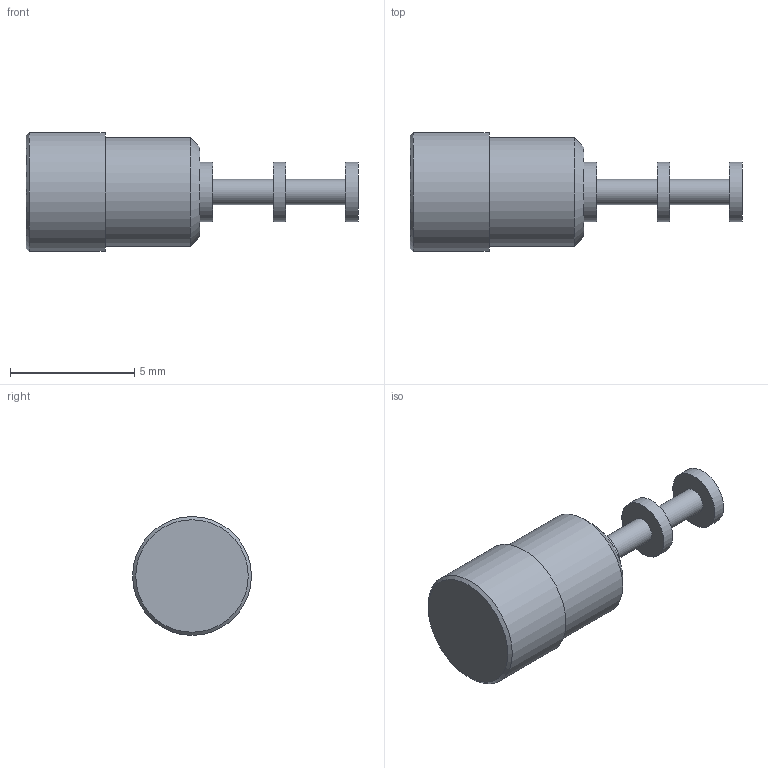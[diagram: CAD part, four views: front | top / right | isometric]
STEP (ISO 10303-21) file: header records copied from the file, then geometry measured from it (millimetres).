
FILE_DESCRIPTION(/* description */ (''),/* implementation_level */ '2;1');
FILE_NAME(/* name */ '\\Snap1\dwgs\Customer 3D Models\571\571-4105-01 Customer model.stp',/* time_stamp */ '2017-01-05T14:44:53+00:00',/* author */ ('paulk'),/* organization */ (''),/* preprocessor_version */ 'ST-DEVELOPER v15.2',/* originating_system */ 'Autodesk Inventor 2014',/* authorisation */ '');
FILE_SCHEMA (('CONFIG_CONTROL_DESIGN'));
Length unit declared in the file: millimetre
Products named in the file (1): 571-4105-01 Customer model
Bounding box: 13.34 x 4.78 x 4.78 mm (x, y, z)
Volume: 123.7 mm3; surface area: 172.9 mm2
Topology: 1 solids, 1 shells, 17 faces, 25 edges, 16 vertices
Faces by surface type: plane 8, cylinder 7, cone 2
Full cylindrical faces by diameter (mm): 1.016 x2, 2.388 x3, 4.369 x1, 4.775 x1
Entity records: 386 total; most frequent: DIRECTION 68, CARTESIAN_POINT 50, AXIS2_PLACEMENT_3D 34, EDGE_LOOP 32, ORIENTED_EDGE 32, FACE_BOUND 19, STYLED_ITEM 18, ADVANCED_FACE 17
